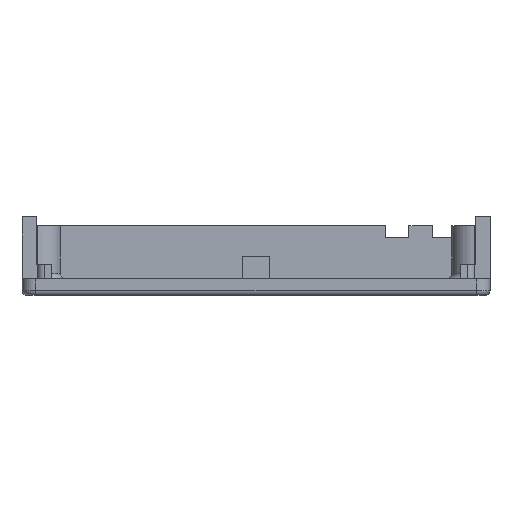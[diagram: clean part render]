
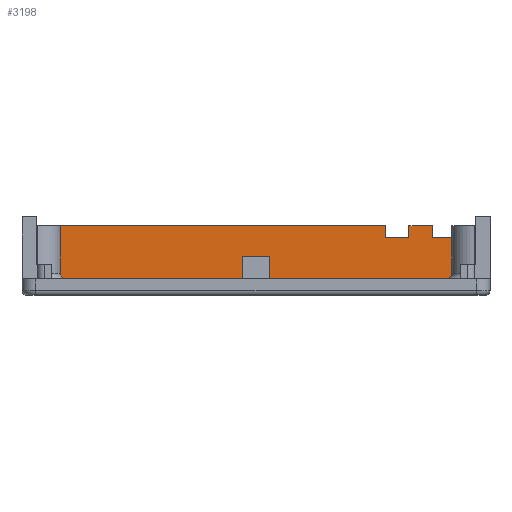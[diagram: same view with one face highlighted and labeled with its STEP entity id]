
A CAD part, left-side view. The second image highlights one B-rep face of the part: STEP entity #3198.
In plain terms, the highlighted planar face has unit normal (-1, 0, 0).
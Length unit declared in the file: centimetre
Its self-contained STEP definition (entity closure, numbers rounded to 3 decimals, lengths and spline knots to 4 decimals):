
#164=PLANE($,#3497);
#350=FACE_OUTER_BOUND($,#541,.T.);
#541=EDGE_LOOP($,(#2873,#2874,#2875,#2876,#2877,#2878,#2879,#2880,#2881,
#2882,#2883,#2884,#2885,#2886));
#781=LINE($,#4730,#1093);
#815=LINE($,#4814,#1127);
#843=LINE($,#5097,#1155);
#942=LINE($,#5673,#1254);
#943=LINE($,#5676,#1255);
#946=LINE($,#5682,#1258);
#947=LINE($,#5684,#1259);
#948=LINE($,#5686,#1260);
#949=LINE($,#5687,#1261);
#950=LINE($,#5689,#1262);
#951=LINE($,#5691,#1263);
#952=LINE($,#5693,#1264);
#953=LINE($,#5695,#1265);
#954=LINE($,#5696,#1266);
#1093=VECTOR($,#3777,9.524);
#1127=VECTOR($,#3843,1.3505);
#1155=VECTOR($,#3935,1.545);
#1254=VECTOR($,#4354,0.2627);
#1255=VECTOR($,#4357,0.5);
#1258=VECTOR($,#4362,7.5816);
#1259=VECTOR($,#4363,0.);
#1260=VECTOR($,#4364,0.1945);
#1261=VECTOR($,#4365,0.4264);
#1262=VECTOR($,#4366,0.2627);
#1263=VECTOR($,#4367,0.516);
#1264=VECTOR($,#4368,0.2627);
#1265=VECTOR($,#4369,0.5);
#1266=VECTOR($,#4370,0.2627);
#1406=VERTEX_POINT($,#4727);
#1407=VERTEX_POINT($,#4729);
#1441=VERTEX_POINT($,#4813);
#1488=VERTEX_POINT($,#5095);
#1562=VERTEX_POINT($,#5666);
#1565=VERTEX_POINT($,#5671);
#1566=VERTEX_POINT($,#5675);
#1568=VERTEX_POINT($,#5681);
#1569=VERTEX_POINT($,#5683);
#1570=VERTEX_POINT($,#5685);
#1571=VERTEX_POINT($,#5688);
#1572=VERTEX_POINT($,#5690);
#1573=VERTEX_POINT($,#5692);
#1574=VERTEX_POINT($,#5694);
#1737=EDGE_CURVE($,#1407,#1406,#781,.T.);
#1779=EDGE_CURVE($,#1441,#1407,#815,.T.);
#1844=EDGE_CURVE($,#1406,#1488,#843,.T.);
#2015=EDGE_CURVE($,#1562,#1565,#942,.T.);
#2016=EDGE_CURVE($,#1565,#1566,#943,.T.);
#2019=EDGE_CURVE($,#1568,#1441,#946,.T.);
#2020=EDGE_CURVE($,#1569,#1488,#947,.F.);
#2021=EDGE_CURVE($,#1569,#1570,#948,.F.);
#2022=EDGE_CURVE($,#1570,#1562,#949,.T.);
#2023=EDGE_CURVE($,#1566,#1571,#950,.T.);
#2024=EDGE_CURVE($,#1571,#1572,#951,.T.);
#2025=EDGE_CURVE($,#1572,#1573,#952,.T.);
#2026=EDGE_CURVE($,#1573,#1574,#953,.T.);
#2027=EDGE_CURVE($,#1574,#1568,#954,.T.);
#2873=ORIENTED_EDGE($,*,*,#2019,.T.);
#2874=ORIENTED_EDGE($,*,*,#1779,.T.);
#2875=ORIENTED_EDGE($,*,*,#1737,.T.);
#2876=ORIENTED_EDGE($,*,*,#1844,.T.);
#2877=ORIENTED_EDGE($,*,*,#2020,.F.);
#2878=ORIENTED_EDGE($,*,*,#2021,.T.);
#2879=ORIENTED_EDGE($,*,*,#2022,.T.);
#2880=ORIENTED_EDGE($,*,*,#2015,.T.);
#2881=ORIENTED_EDGE($,*,*,#2016,.T.);
#2882=ORIENTED_EDGE($,*,*,#2023,.T.);
#2883=ORIENTED_EDGE($,*,*,#2024,.T.);
#2884=ORIENTED_EDGE($,*,*,#2025,.T.);
#2885=ORIENTED_EDGE($,*,*,#2026,.T.);
#2886=ORIENTED_EDGE($,*,*,#2027,.T.);
#3198=ADVANCED_FACE($,(#350),#164,.T.);
#3497=AXIS2_PLACEMENT_3D($,#5680,#4360,#4361);
#3777=DIRECTION($,(0.,-1.,0.));
#3843=DIRECTION($,(0.,0.,-1.));
#3935=DIRECTION($,(0.,0.,1.));
#4354=DIRECTION($,(0.,0.,-1.));
#4357=DIRECTION($,(0.,1.,0.));
#4360=DIRECTION('center_axis',(-1.,0.,0.));
#4361=DIRECTION('ref_axis',(0.,0.,-1.));
#4362=DIRECTION($,(0.,1.,0.));
#4363=DIRECTION($,(0.,1.,0.));
#4364=DIRECTION($,(0.,0.,1.));
#4365=DIRECTION($,(0.,1.,0.));
#4366=DIRECTION($,(0.,0.,1.));
#4367=DIRECTION($,(0.,1.,0.));
#4368=DIRECTION($,(0.,0.,-1.));
#4369=DIRECTION($,(0.,1.,0.));
#4370=DIRECTION($,(0.,0.,1.));
#4727=CARTESIAN_POINT('',(-58.316,-74.735,0.1459));
#4729=CARTESIAN_POINT('',(-58.316,-65.211,0.1459));
#4730=CARTESIAN_POINT($,(-58.316,-69.7412,0.1459));
#4813=CARTESIAN_POINT('',(-58.316,-65.211,1.4964));
#4814=CARTESIAN_POINT($,(-58.316,-65.211,0.5259));
#5095=CARTESIAN_POINT('',(-58.316,-74.735,1.6909));
#5097=CARTESIAN_POINT($,(-58.316,-74.735,0.5259));
#5666=CARTESIAN_POINT('',(-58.316,-74.3086,1.4964));
#5671=CARTESIAN_POINT('',(-58.316,-74.3086,1.2337));
#5673=CARTESIAN_POINT($,(-58.316,-74.3086,0.3148));
#5675=CARTESIAN_POINT('',(-58.316,-73.8086,1.2337));
#5676=CARTESIAN_POINT($,(-58.316,-71.8999,1.2337));
#5680=CARTESIAN_POINT('Origin',(-58.316,-69.7412,-0.6541));
#5681=CARTESIAN_POINT('',(-58.316,-72.7926,1.4964));
#5682=CARTESIAN_POINT($,(-58.316,-69.857,1.4964));
#5683=CARTESIAN_POINT('',(-58.316,-74.735,1.6909));
#5684=CARTESIAN_POINT($,(-58.316,-69.8571,1.6909));
#5685=CARTESIAN_POINT('',(-58.316,-74.735,1.4964));
#5686=CARTESIAN_POINT($,(-58.316,-74.735,0.5112));
#5687=CARTESIAN_POINT($,(-58.316,-69.857,1.4964));
#5688=CARTESIAN_POINT('',(-58.316,-73.8086,1.4964));
#5689=CARTESIAN_POINT($,(-58.316,-73.8086,0.3148));
#5690=CARTESIAN_POINT('',(-58.316,-73.2926,1.4964));
#5691=CARTESIAN_POINT($,(-58.316,-69.857,1.4964));
#5692=CARTESIAN_POINT('',(-58.316,-73.2926,1.2337));
#5693=CARTESIAN_POINT($,(-58.316,-73.2926,0.3148));
#5694=CARTESIAN_POINT('',(-58.316,-72.7926,1.2337));
#5695=CARTESIAN_POINT($,(-58.316,-71.3919,1.2337));
#5696=CARTESIAN_POINT($,(-58.316,-72.7926,0.3148));
